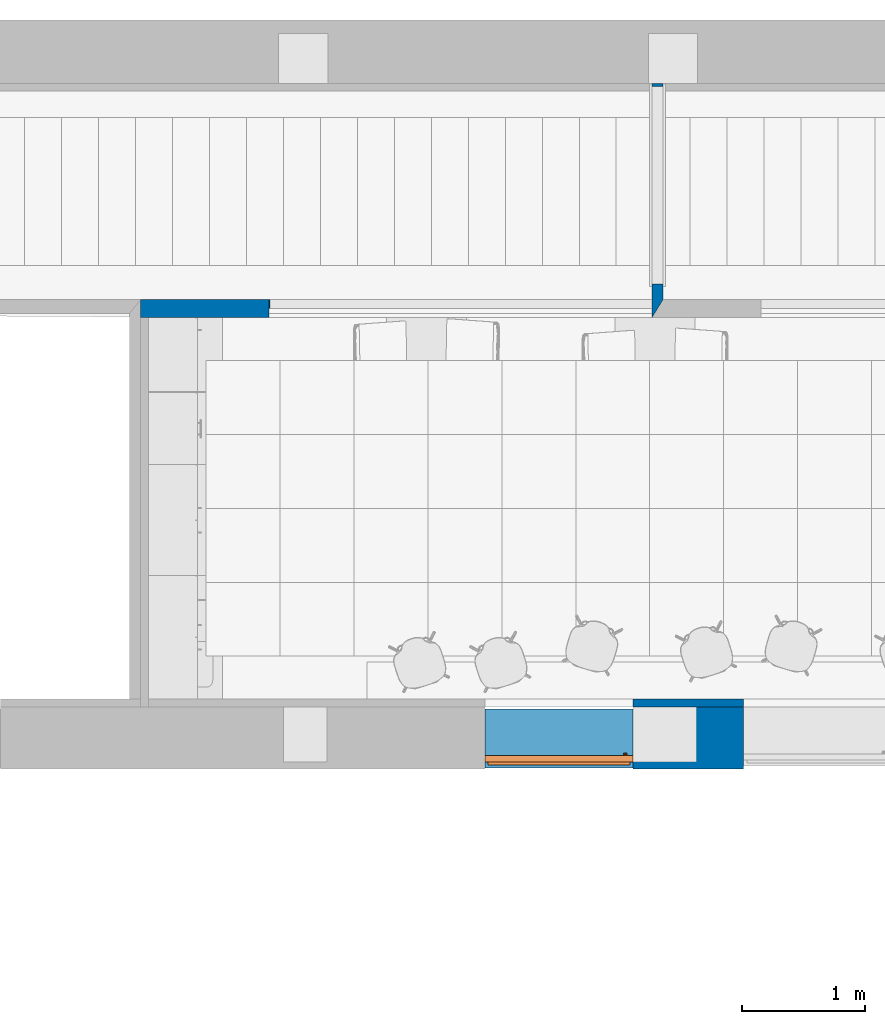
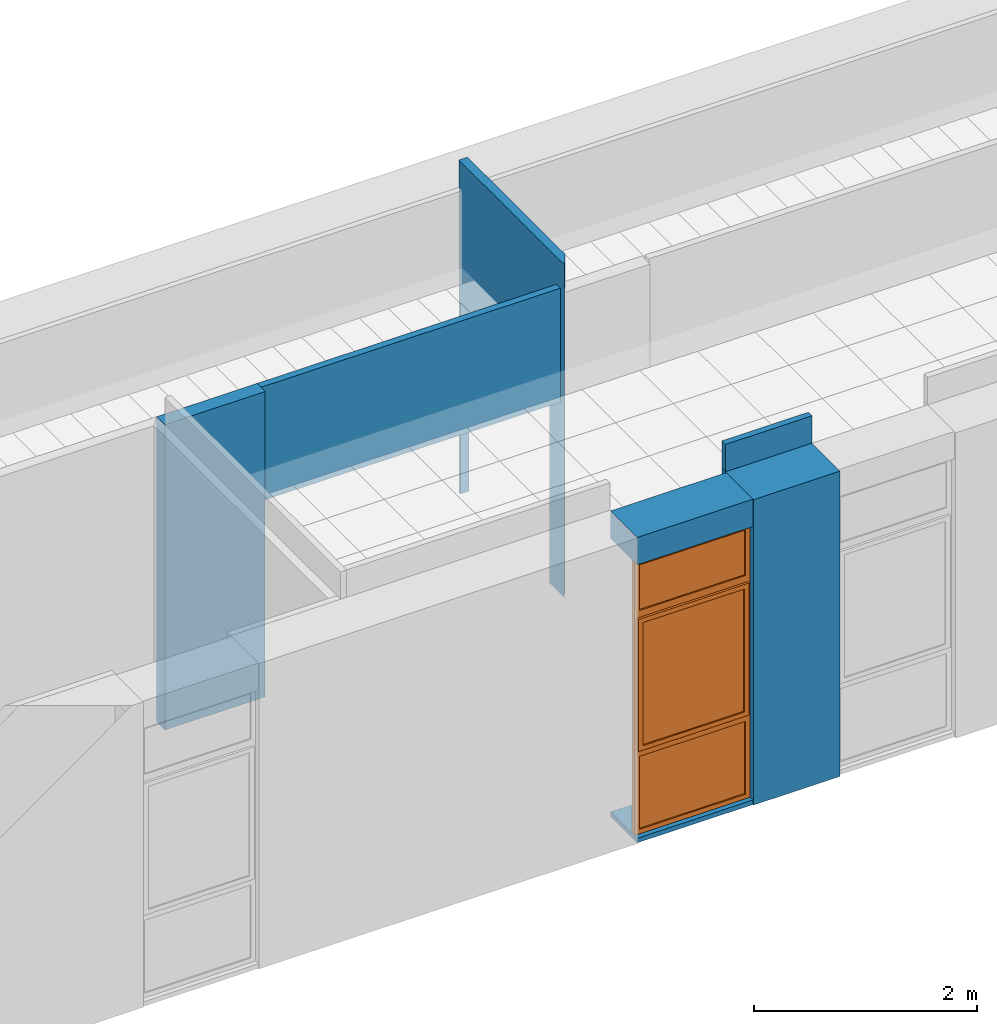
# One storey, part 34 of 60: 7 walls, 1 proxy, 3 openings.
"""IFC2X3 building model written with IfcOpenShell, lengths in millimetres."""

from ifc_helpers import new_model, entity, si_unit, converted_unit, derived_unit, money_unit, direction, frame, origin_with_axes, origin_2d_with_axis, place, context, subcontext, project, spatial, polyline, rectangle, outline, extrude, open_shell, faceted_brep, surface_model, source, transform, mapped, material, layer, layer_set, layer_usage, type_object, element, fill, save


model = new_model("IFC2X3")

# Units and contexts
model_context = context("Model", 3, precision=0.01, world=origin_with_axes(), true_north=direction((0.0, 1.0)))
body_context = subcontext(model_context, "Body", "Model", "MODEL_VIEW")
ifc_project = project(units=[si_unit("LENGTHUNIT", "METRE", prefix="MILLI"), si_unit("AREAUNIT", "SQUARE_METRE"), si_unit("VOLUMEUNIT", "CUBIC_METRE"), converted_unit("PLANEANGLEUNIT", "DEGREE", entity("IfcPlaneAngleMeasure", 0.0174532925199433), si_unit("PLANEANGLEUNIT", "RADIAN"), dimensions=[0, 0, 0, 0, 0, 0, 0]), money_unit("USD"), converted_unit("TIMEUNIT", "Year", entity("IfcTimeMeasure", 31557600.0), si_unit("TIMEUNIT", "SECOND"), dimensions=[0, 0, 1, 0, 0, 0, 0]), si_unit("MASSUNIT", "GRAM", prefix="KILO"), si_unit("THERMODYNAMICTEMPERATUREUNIT", "DEGREE_CELSIUS"), si_unit("LUMINOUSINTENSITYUNIT", "LUMEN"), si_unit("ENERGYUNIT", "JOULE", prefix="MEGA"), derived_unit("THERMALCONDUCTANCEUNIT", [(si_unit("POWERUNIT", "WATT"), 1), (si_unit("LENGTHUNIT", "METRE"), -1), (si_unit("THERMODYNAMICTEMPERATUREUNIT", "KELVIN"), -1)]), derived_unit("SPECIFICHEATCAPACITYUNIT", [(si_unit("ENERGYUNIT", "JOULE"), 1), (si_unit("MASSUNIT", "GRAM", prefix="KILO"), -1), (si_unit("THERMODYNAMICTEMPERATUREUNIT", "KELVIN"), -1)]), derived_unit("MASSDENSITYUNIT", [(si_unit("MASSUNIT", "GRAM", prefix="KILO"), 1), (si_unit("VOLUMEUNIT", "CUBIC_METRE"), -1)])], contexts=[model_context])

# Site, building, storey
site_placement = place(None, origin_with_axes())
site = spatial("IfcSite", under=ifc_project, at=site_placement, Name="Sitio", CompositionType="ELEMENT")
building_placement = place(site_placement, origin_with_axes())
building = spatial("IfcBuilding", under=site, at=building_placement, Name="Construcción", CompositionType="ELEMENT")
storey_placement = place(building_placement, frame((0.0, 0.0, 3650.0), z_axis=(0.0, 0.0, 1.0), x_axis=(1.0, 0.0, 0.0)))
storey = spatial("IfcBuildingStorey", under=building, at=storey_placement, Name="PLANTA 2ª", CompositionType="ELEMENT", Elevation=3650.0)

# Wall, opening, proxy
ifc_material_1 = material(Name="ARQ_AM246_Arrebossat_De_Guix")
ifc_layer_1 = layer(ifc_material_1, 10.0, ventilated="UNKNOWN")
ifc_material_2 = material(Name="ARQ_CE217_Gero")
ifc_layer_2 = layer(ifc_material_2, 120.0, ventilated="UNKNOWN")
ifc_material_3 = material(Name="ARQ_AI031_Aillament_Poliestireno expandido EPS")
ifc_layer_3 = layer(ifc_material_3, 120.0, ventilated="UNKNOWN")
ifc_material_4 = material(Name="ARQ_CE218_Ceramic")
ifc_layer_4 = layer(ifc_material_4, 220.0, ventilated="UNKNOWN")
ifc_layer_5 = layer(ifc_material_1, 10.0, ventilated="UNKNOWN")
ifc_layer_set_1 = layer_set([ifc_layer_1, ifc_layer_2, ifc_layer_3, ifc_layer_4, ifc_layer_5], Name="façana pati CR2 (ampit)")
ifc_layer_usage_1 = layer_usage(ifc_layer_set_1, "AXIS2", "POSITIVE", -480.0)
wall_type_1 = type_object("IfcWallType", Name="façana pati CR2 (ampit) 480", PredefinedType="NOTDEFINED")
wall_1_placement = place(storey_placement, frame((-20233.93135579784, -1208.975823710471, 0.0), z_axis=(0.0, 0.0, 1.0), x_axis=(1.0, 0.0, 0.0)))
wall_1 = element("IfcWallStandardCase", 1, at=wall_1_placement, inside=storey, type_object=wall_type_1, material=ifc_layer_usage_1, Name="MS-200", context=body_context, shape_type="SweptSolid", body=[
    extrude(outline(polyline([(0.0, -480.0), (1200.000000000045, -480.0), (1200.000000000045, 0.0), (0.0, 0.0), (0.0, -480.0)])), origin_with_axes(), (0.0, 0.0, 1.0), 3350.0),
])
opening_1_placement = place(wall_1_placement, frame((600.0000000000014, 0.0, 49.99999999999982), z_axis=(0.0, 0.0, 1.0), x_axis=(1.0, 0.0, 0.0)))
opening_1 = element("IfcOpeningElement", 2, at=opening_1_placement, cuts=wall_1, Name="F01", context=body_context, shape_type="SweptSolid", body=[
    extrude(rectangle(XDim=1200.000000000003, YDim=3000.0, at=origin_2d_with_axis()), frame((0.0, -429.9999999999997, 1500.0), z_axis=(0.0, -1.0, 0.0), x_axis=(-1.0, 0.0, 0.0)), (0.0, 0.0, -1.0), 909.9999999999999),
    extrude(rectangle(XDim=1200.000000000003, YDim=3000.0, at=origin_2d_with_axis()), frame((0.0, -429.9999999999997, 1500.0), z_axis=(0.0, 1.0, 0.0), x_axis=(-1.0, 0.0, 0.0)), (0.0, 0.0, -1.0), 530.0),
])
building_element_proxy_type = type_object("IfcBuildingElementProxyType", Name="Ventana Vertical Multi-Faja 27", PredefinedType="NOTDEFINED")
shared_shape = source(origin_with_axes(), body_context, "Body", "SurfaceModel", [
    faceted_brep([(-575.0, 0.0, 925.0), (-549.9999999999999, 0.0, 925.0), (-549.9999999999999, 0.0, 850.0), (-549.9999999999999, 0.0, 50.00000000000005), (-600.0, 0.0, 50.00000000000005), (-600.0, 0.0, 2950.0), (-549.9999999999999, 0.0, 2950.0), (-549.9999999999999, 0.0, 2450.0), (-549.9999999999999, 0.0, 2375.0), (-575.0, 0.0, 2375.0), (-575.0, -25.00000000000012, 925.0), (-549.9999999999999, -25.00000000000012, 925.0), (-549.9999999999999, -25.00000000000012, 950.0000000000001), (-549.9999999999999, -50.00000000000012, 950.0000000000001), (-549.9999999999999, -50.00000000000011, 850.0), (-549.9999999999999, -50.00000000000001, 50.00000000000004), (-600.0, -50.00000000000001, 50.00000000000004), (-600.0, -50.00000000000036, 2950.0), (-549.9999999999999, -50.00000000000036, 2950.0), (-549.9999999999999, -50.0000000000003, 2450.0), (-550.0, -25.00000000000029, 2375.0), (-549.9999999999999, -50.00000000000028, 2350.0), (-549.9999999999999, -25.00000000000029, 2350.0), (-575.0, -25.00000000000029, 2375.0)], [[[0, 1, 2, 3, 4, 5, 6, 7, 8, 9]], [[0, 10, 11, 1]], [[11, 12, 13, 14, 2, 1]], [[3, 2, 14, 15]], [[4, 3, 15, 16]], [[5, 4, 16, 17]], [[6, 5, 17, 18]], [[7, 6, 18, 19]], [[20, 8, 7, 19, 21, 22]], [[20, 23, 9, 8]], [[9, 23, 10, 0]], [[22, 12, 11, 10, 23, 20]], [[22, 21, 13, 12]], [[17, 16, 15, 14, 13, 21, 19, 18]]]),
    faceted_brep([(575.0, 0.0, 925.0), (575.0, 0.0, 2375.0), (549.9999999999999, 0.0, 2375.0), (549.9999999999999, 0.0, 2450.0), (549.9999999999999, 0.0, 2950.0), (600.0, 0.0, 2950.0), (600.0, 0.0, 50.00000000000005), (549.9999999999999, 0.0, 50.00000000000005), (549.9999999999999, 0.0, 850.0), (549.9999999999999, 0.0, 925.0), (575.0, -25.00000000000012, 925.0), (575.0, -25.00000000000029, 2375.0), (549.9999999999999, -25.00000000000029, 2375.0), (549.9999999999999, -25.00000000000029, 2350.0), (549.9999999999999, -50.00000000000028, 2350.0), (549.9999999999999, -50.0000000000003, 2450.0), (549.9999999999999, -50.00000000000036, 2950.0), (600.0, -50.00000000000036, 2950.0), (600.0, -50.00000000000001, 50.00000000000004), (549.9999999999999, -50.00000000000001, 50.00000000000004), (549.9999999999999, -50.00000000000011, 850.0), (550.0, -25.00000000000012, 925.0), (549.9999999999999, -50.00000000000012, 950.0000000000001), (549.9999999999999, -25.00000000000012, 950.0000000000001)], [[[0, 1, 2, 3, 4, 5, 6, 7, 8, 9]], [[0, 10, 11, 1]], [[1, 11, 12, 2]], [[12, 13, 14, 15, 3, 2]], [[4, 3, 15, 16]], [[5, 4, 16, 17]], [[6, 5, 17, 18]], [[7, 6, 18, 19]], [[8, 7, 19, 20]], [[21, 9, 8, 20, 22, 23]], [[9, 21, 10, 0]], [[12, 11, 10, 21, 23, 13]], [[23, 22, 14, 13]], [[14, 22, 20, 19, 18, 17, 16, 15]]]),
    faceted_brep([(-549.9999999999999, -25.00000000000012, 950.0000000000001), (-549.9999999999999, -50.00000000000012, 950.0000000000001), (549.9999999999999, -50.00000000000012, 950.0000000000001), (549.9999999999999, -25.00000000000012, 950.0000000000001), (-549.9999999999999, -25.00000000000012, 925.0), (-549.9999999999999, 0.0, 925.0), (-549.9999999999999, 0.0, 850.0), (-549.9999999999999, -50.00000000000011, 850.0), (549.9999999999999, -50.00000000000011, 850.0), (550.0, -25.00000000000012, 925.0), (549.9999999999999, 0.0, 850.0), (549.9999999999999, 0.0, 925.0)], [[[0, 1, 2, 3]], [[4, 5, 6, 7, 1, 0]], [[1, 7, 8, 2]], [[9, 3, 2, 8, 10, 11]], [[9, 4, 0, 3]], [[5, 4, 9, 11]], [[11, 10, 6, 5]], [[6, 10, 8, 7]]]),
    faceted_brep([(-549.9999999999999, 0.0, 2375.0), (-549.9999999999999, 0.0, 2450.0), (549.9999999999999, 0.0, 2450.0), (549.9999999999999, 0.0, 2375.0), (-550.0, -25.00000000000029, 2375.0), (-549.9999999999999, -25.00000000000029, 2350.0), (-549.9999999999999, -50.00000000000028, 2350.0), (-549.9999999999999, -50.0000000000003, 2450.0), (549.9999999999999, -50.0000000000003, 2450.0), (549.9999999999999, -25.00000000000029, 2375.0), (549.9999999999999, -50.00000000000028, 2350.0), (549.9999999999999, -25.00000000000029, 2350.0)], [[[0, 1, 2, 3]], [[4, 5, 6, 7, 1, 0]], [[2, 1, 7, 8]], [[9, 3, 2, 8, 10, 11]], [[9, 4, 0, 3]], [[11, 5, 4, 9]], [[11, 10, 6, 5]], [[7, 6, 10, 8]]]),
    faceted_brep([(549.9999999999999, -50.00000000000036, 2950.0), (549.9999999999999, 0.0, 2950.0), (600.0, 0.0, 2950.0), (600.0, -50.00000000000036, 2950.0), (-549.9999999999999, -50.00000000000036, 2950.0), (-549.9999999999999, 0.0, 2950.0), (-600.0, 0.0, 2950.0), (-600.0, 0.0, 3000.0), (600.0, 0.0, 3000.0), (600.0, -50.00000000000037, 3000.0), (-600.0, -50.00000000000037, 3000.0), (-600.0, -50.00000000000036, 2950.0)], [[[0, 1, 2, 3]], [[4, 5, 1, 0]], [[1, 5, 6, 7, 8, 2]], [[3, 2, 8, 9]], [[0, 3, 9, 10, 11, 4]], [[11, 6, 5, 4]], [[10, 7, 6, 11]], [[9, 8, 7, 10]]]),
    faceted_brep([(-549.9999999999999, -50.00000000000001, 50.0), (-549.9999999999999, 0.0, 50.00000000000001), (-600.0, 0.0, 50.00000000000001), (-600.0, -50.00000000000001, 50.0), (549.9999999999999, -50.00000000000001, 50.0), (549.9999999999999, 0.0, 50.00000000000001), (600.0, 0.0, 50.00000000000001), (600.0, 0.0, 0.0), (-600.0, 0.0, 0.0), (-600.0, -50.0, 0.0), (600.0, -50.0, 0.0), (600.0, -50.00000000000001, 50.0)], [[[0, 1, 2, 3]], [[4, 5, 1, 0]], [[1, 5, 6, 7, 8, 2]], [[3, 2, 8, 9]], [[0, 3, 9, 10, 11, 4]], [[11, 6, 5, 4]], [[10, 7, 6, 11]], [[9, 8, 7, 10]]]),
    surface_model("IfcShellBasedSurfaceModel", [(-549.9999999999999, -35.0, 49.99999999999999), (549.9999999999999, -35.0, 49.99999999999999), (549.9999999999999, -35.0000000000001, 850.0), (-549.9999999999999, -35.0000000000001, 850.0)], [open_shell([[[0, 1, 2, 3]]])]),
    surface_model("IfcShellBasedSurfaceModel", [(-549.9999999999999, -15.0, 49.99999999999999), (-549.9999999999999, -15.0000000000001, 850.0), (549.9999999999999, -15.0000000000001, 850.0), (549.9999999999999, -15.0, 49.99999999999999)], [open_shell([[[0, 1, 2, 3]]])]),
    faceted_brep([(-521.5, -25.00000000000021, 1677.0), (-522.8397459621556, -25.00000000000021, 1682.0), (-522.8397459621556, -37.00000000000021, 1682.0), (-521.5, -37.00000000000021, 1677.0), (-521.5, -25.0000000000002, 1623.0), (-522.8397459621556, -25.0000000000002, 1618.0), (-526.5, -25.0000000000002, 1614.339745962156), (-531.5, -25.0000000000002, 1613.0), (-543.5, -25.0000000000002, 1613.0), (-548.5, -25.0000000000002, 1614.339745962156), (-552.1602540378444, -25.0000000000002, 1618.0), (-553.5, -25.0000000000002, 1623.0), (-553.5, -25.00000000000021, 1677.0), (-552.1602540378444, -25.00000000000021, 1682.0), (-548.5, -25.00000000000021, 1685.660254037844), (-543.5, -25.00000000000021, 1687.0), (-531.5, -25.00000000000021, 1687.0), (-526.5, -25.00000000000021, 1685.660254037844), (-526.5, -37.00000000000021, 1685.660254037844), (-531.5, -37.00000000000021, 1687.0), (-543.5, -37.00000000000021, 1687.0), (-548.5, -37.00000000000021, 1685.660254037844), (-552.1602540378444, -37.00000000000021, 1682.0), (-553.5, -37.00000000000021, 1677.0), (-553.5, -37.0000000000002, 1623.0), (-552.1602540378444, -37.0000000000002, 1618.0), (-548.5, -37.0000000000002, 1614.339745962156), (-543.5, -37.0000000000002, 1613.0), (-531.5, -37.0000000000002, 1613.0), (-526.5, -37.0000000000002, 1614.339745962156), (-522.8397459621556, -37.0000000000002, 1618.0), (-521.5, -37.0000000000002, 1623.0)], [[[0, 1, 2, 3]], [[0, 4, 5, 6, 7, 8, 9, 10, 11, 12, 13, 14, 15, 16, 17, 1]], [[1, 17, 18, 2]], [[3, 2, 18, 19, 20, 21, 22, 23, 24, 25, 26, 27, 28, 29, 30, 31]], [[4, 0, 3, 31]], [[5, 4, 31, 30]], [[6, 5, 30, 29]], [[7, 6, 29, 28]], [[8, 7, 28, 27]], [[9, 8, 27, 26]], [[10, 9, 26, 25]], [[11, 10, 25, 24]], [[12, 11, 24, 23]], [[13, 12, 23, 22]], [[14, 13, 22, 21]], [[15, 14, 21, 20]], [[16, 15, 20, 19]], [[17, 16, 19, 18]]]),
    faceted_brep([(-537.5, -37.0000000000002, 1663.5), (-544.25, -37.0000000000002, 1661.69134295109), (-544.25, -61.00000000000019, 1661.69134295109), (-537.5, -61.00000000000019, 1663.5), (-530.75, -37.0000000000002, 1661.69134295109), (-525.80865704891, -37.0000000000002, 1656.75), (-524.0, -37.0000000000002, 1650.0), (-525.8086570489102, -37.0000000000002, 1643.25), (-530.75, -37.0000000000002, 1638.30865704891), (-537.5, -37.0000000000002, 1636.5), (-544.25, -37.0000000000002, 1638.30865704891), (-549.19134295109, -37.0000000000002, 1643.25), (-550.9999999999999, -37.0000000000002, 1650.0), (-549.1913429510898, -37.0000000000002, 1656.75), (-549.1913429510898, -61.00000000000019, 1656.75), (-550.9999999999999, -61.00000000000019, 1650.0), (-549.19134295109, -61.00000000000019, 1643.25), (-544.25, -61.00000000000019, 1638.30865704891), (-537.5, -61.00000000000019, 1636.5), (-530.75, -61.00000000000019, 1638.30865704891), (-525.8086570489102, -61.00000000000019, 1643.25), (-524.0, -61.00000000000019, 1650.0), (-525.80865704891, -61.00000000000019, 1656.75), (-530.75, -61.00000000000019, 1661.69134295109)], [[[0, 1, 2, 3]], [[0, 4, 5, 6, 7, 8, 9, 10, 11, 12, 13, 1]], [[1, 13, 14, 2]], [[3, 2, 14, 15, 16, 17, 18, 19, 20, 21, 22, 23]], [[4, 0, 3, 23]], [[5, 4, 23, 22]], [[6, 5, 22, 21]], [[7, 6, 21, 20]], [[8, 7, 20, 19]], [[9, 8, 19, 18]], [[10, 9, 18, 17]], [[11, 10, 17, 16]], [[12, 11, 16, 15]], [[13, 12, 15, 14]]]),
    faceted_brep([(-526.0, -61.00000000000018, 1543.0), (-537.5, -61.00000000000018, 1540.0), (-548.9999999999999, -61.00000000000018, 1543.0), (-550.9999999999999, -61.00000000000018, 1546.0), (-550.9999999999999, -61.00000000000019, 1650.0), (-549.1913429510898, -61.00000000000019, 1656.75), (-544.25, -61.00000000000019, 1661.69134295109), (-537.5, -61.00000000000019, 1663.5), (-530.75, -61.00000000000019, 1661.69134295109), (-525.80865704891, -61.00000000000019, 1656.75), (-524.0, -61.00000000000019, 1650.0), (-524.0, -61.00000000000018, 1546.0), (-525.9999999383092, -69.00000000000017, 1543.000000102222), (-537.499999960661, -69.00000000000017, 1539.999999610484), (-548.9999999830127, -69.00000000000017, 1543.000000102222), (-551.0000003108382, -69.00000000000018, 1545.999999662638), (-551.0000003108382, -69.0000000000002, 1649.99999994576), (-549.1913429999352, -69.0000000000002, 1656.749999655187), (-544.2499996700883, -69.0000000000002, 1661.691342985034), (-537.499999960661, -69.0000000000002, 1663.500000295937), (-530.7500002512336, -69.0000000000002, 1661.691342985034), (-525.8086569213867, -69.0000000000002, 1656.749999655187), (-523.9999996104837, -69.0000000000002, 1649.99999994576), (-523.9999996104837, -69.00000000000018, 1545.999999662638), (-527.8625374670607, -71.99999956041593, 1545.61451963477), (-537.499999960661, -71.99999956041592, 1543.100398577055), (-547.1374624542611, -71.99999956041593, 1545.61451963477), (-548.0000007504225, -71.99999956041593, 1546.908326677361), (-548.0000007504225, -71.99999956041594, 1649.605042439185), (-546.5016170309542, -71.99999956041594, 1655.197085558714), (-542.6970855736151, -71.99999956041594, 1659.001617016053), (-537.499999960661, -71.99999956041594, 1660.394172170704), (-532.3029143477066, -71.99999956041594, 1659.001617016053), (-528.4983828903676, -71.99999956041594, 1655.197085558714), (-526.9999991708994, -71.99999956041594, 1649.605042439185), (-526.9999991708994, -71.99999956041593, 1546.908326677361)], [[[0, 1, 2, 3, 4, 5, 6, 7, 8, 9, 10, 11]], [[1, 0, 12, 13]], [[2, 1, 13, 14]], [[3, 2, 14, 15]], [[4, 3, 15, 16]], [[5, 4, 16, 17]], [[6, 5, 17, 18]], [[7, 6, 18, 19]], [[8, 7, 19, 20]], [[9, 8, 20, 21]], [[10, 9, 21, 22]], [[11, 10, 22, 23]], [[0, 11, 23, 12]], [[13, 12, 24, 25]], [[14, 13, 25, 26]], [[15, 14, 26, 27]], [[16, 15, 27, 28]], [[17, 16, 28, 29]], [[18, 17, 29, 30]], [[19, 18, 30, 31]], [[20, 19, 31, 32]], [[21, 20, 32, 33]], [[22, 21, 33, 34]], [[23, 22, 34, 35]], [[12, 23, 35, 24]], [[26, 25, 24, 35, 34, 33, 32, 31, 30, 29, 28, 27]]]),
    faceted_brep([(-524.9999999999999, -25.00000000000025, 2325.0), (-524.9999999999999, 24.99999999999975, 2325.0), (-575.0, 24.99999999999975, 2325.0), (-575.0, -25.00000000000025, 2325.0), (-524.9999999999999, -25.00000000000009, 975.0000000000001), (-524.9999999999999, 24.99999999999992, 975.0000000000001), (-575.0, 24.99999999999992, 975.0000000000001), (-575.0, -25.00000000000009, 975.0000000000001)], [[[0, 1, 2, 3]], [[4, 5, 1, 0]], [[1, 5, 6, 2]], [[3, 2, 6, 7]], [[0, 3, 7, 4]], [[7, 6, 5, 4]]]),
    faceted_brep([(524.9999999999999, -25.00000000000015, 975.0000000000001), (524.9999999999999, 24.99999999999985, 975.0000000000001), (575.0, 24.99999999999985, 975.0000000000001), (575.0, -25.00000000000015, 975.0000000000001), (524.9999999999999, -25.00000000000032, 2325.0), (524.9999999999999, 24.99999999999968, 2325.0), (575.0, 24.99999999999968, 2325.0), (575.0, -25.00000000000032, 2325.0)], [[[0, 1, 2, 3]], [[4, 5, 1, 0]], [[1, 5, 6, 2]], [[3, 2, 6, 7]], [[0, 3, 7, 4]], [[7, 6, 5, 4]]]),
    faceted_brep([(575.0, -25.00000000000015, 925.0), (575.0, 24.99999999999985, 925.0), (575.0, 24.99999999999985, 975.0000000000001), (575.0, -25.00000000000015, 975.0000000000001), (-575.0, -25.00000000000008, 925.0), (-575.0, 24.99999999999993, 925.0), (-575.0, 24.99999999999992, 975.0000000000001), (-524.9999999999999, 24.99999999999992, 975.0000000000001), (524.9999999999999, 24.99999999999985, 975.0000000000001), (524.9999999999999, -25.00000000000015, 975.0000000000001), (-524.9999999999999, -25.00000000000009, 975.0000000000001), (-575.0, -25.00000000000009, 975.0000000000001)], [[[0, 1, 2, 3]], [[4, 5, 1, 0]], [[1, 5, 6, 7, 8, 2]], [[3, 2, 8, 9]], [[0, 3, 9, 10, 11, 4]], [[11, 6, 5, 4]], [[10, 7, 6, 11]], [[9, 8, 7, 10]]]),
    faceted_brep([(-575.0, -25.00000000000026, 2375.0), (-575.0, 24.99999999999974, 2375.0), (-575.0, 24.99999999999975, 2325.0), (-575.0, -25.00000000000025, 2325.0), (575.0, -25.00000000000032, 2375.0), (575.0, 24.99999999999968, 2375.0), (575.0, 24.99999999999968, 2325.0), (524.9999999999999, 24.99999999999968, 2325.0), (-524.9999999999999, 24.99999999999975, 2325.0), (-524.9999999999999, -25.00000000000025, 2325.0), (524.9999999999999, -25.00000000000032, 2325.0), (575.0, -25.00000000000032, 2325.0)], [[[0, 1, 2, 3]], [[4, 5, 1, 0]], [[1, 5, 6, 7, 8, 2]], [[3, 2, 8, 9]], [[0, 3, 9, 10, 11, 4]], [[11, 6, 5, 4]], [[10, 7, 6, 11]], [[9, 8, 7, 10]]]),
    surface_model("IfcShellBasedSurfaceModel", [(-524.9999999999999, -10.00000000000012, 975.0000000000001), (524.9999999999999, -10.00000000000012, 975.0000000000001), (524.9999999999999, -10.00000000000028, 2325.0), (-524.9999999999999, -10.00000000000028, 2325.0)], [open_shell([[[0, 1, 2, 3]]])]),
    surface_model("IfcShellBasedSurfaceModel", [(-524.9999999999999, 9.999999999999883, 975.0000000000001), (-524.9999999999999, 9.99999999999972, 2325.0), (524.9999999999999, 9.99999999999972, 2325.0), (524.9999999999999, 9.999999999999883, 975.0000000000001)], [open_shell([[[0, 1, 2, 3]]])]),
    surface_model("IfcShellBasedSurfaceModel", [(-549.9999999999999, -35.0000000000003, 2450.0), (549.9999999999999, -35.0000000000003, 2450.0), (549.9999999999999, -35.00000000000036, 2950.0), (-549.9999999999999, -35.00000000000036, 2950.0)], [open_shell([[[0, 1, 2, 3]]])]),
    surface_model("IfcShellBasedSurfaceModel", [(-549.9999999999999, -15.0000000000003, 2450.0), (-549.9999999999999, -15.00000000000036, 2950.0), (549.9999999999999, -15.00000000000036, 2950.0), (549.9999999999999, -15.0000000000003, 2450.0)], [open_shell([[[0, 1, 2, 3]]])]),
])
proxy_placement = place(opening_1_placement, frame((600.0000000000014, 0.0, 0.0), z_axis=(0.0, 0.0, 1.0), x_axis=(-1.0, 0.0, 0.0)))
proxy = element("IfcBuildingElementProxy", 3, at=proxy_placement, inside=storey, type_object=building_element_proxy_type, Name="F01", context=body_context, shape_type="MappedRepresentation", body=[
    mapped(shared_shape, transform((600.0000000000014, 429.9999999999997, 0.0))),
])
fill(opening_1, proxy)

# Wall
ifc_layer_6 = layer(ifc_material_2, 10.0, ventilated="UNKNOWN")
ifc_layer_7 = layer(ifc_material_2, 90.0, ventilated="UNKNOWN")
ifc_layer_8 = layer(ifc_material_3, 180.0, ventilated="UNKNOWN")
ifc_layer_9 = layer(ifc_material_4, 215.0, ventilated="UNKNOWN")
ifc_layer_10 = layer(ifc_material_1, 10.0, ventilated="UNKNOWN")
ifc_layer_set_2 = layer_set([ifc_layer_6, ifc_layer_7, ifc_layer_8, ifc_layer_9, ifc_layer_10], Name="façana pati CR2")
ifc_layer_usage_2 = layer_usage(ifc_layer_set_2, "AXIS2", "POSITIVE", -505.0)
wall_type_2 = type_object("IfcWallType", Name="façana pati CR2 505", PredefinedType="NOTDEFINED")
wall_2_placement = place(storey_placement, frame((-19033.93135579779, -1193.975823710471, 0.0), z_axis=(0.0, 0.0, 1.0), x_axis=(1.0, 0.0, 0.0)))
element("IfcWallStandardCase", 4, at=wall_2_placement, inside=storey, type_object=wall_type_2, material=ifc_layer_usage_2, Name="MS-200", context=body_context, shape_type="SweptSolid", body=[
    extrude(outline(polyline([(0.0, -505.0000000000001), (897.5000000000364, -505.0000000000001), (897.5000000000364, 0.0), (0.0, 0.0), (0.0, -505.0000000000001)])), origin_with_axes(), (0.0, 0.0, 1.0), 3350.0),
])

# Wall, opening
ifc_material_5 = material(Name="Panel de Yeso Laminado")
ifc_layer_11 = layer(ifc_material_5, 5.0, ventilated="UNKNOWN")
ifc_material_6 = material(Name="ARQ_AI033_Aillament_Llana_De_Roca")
ifc_layer_12 = layer(ifc_material_6, 60.0, ventilated="UNKNOWN")
ifc_layer_13 = layer(ifc_material_5, 5.0, ventilated="UNKNOWN")
ifc_layer_set_3 = layer_set([ifc_layer_11, ifc_layer_12, ifc_layer_13], Name="CR- MAMPARA")
ifc_layer_usage_3 = layer_usage(ifc_layer_set_3, "AXIS2", "POSITIVE", 0.0)
wall_type_3 = type_object("IfcWallType", Name="CR- MAMPARA 70", PredefinedType="NOTDEFINED")
wall_3_placement = place(storey_placement, frame((-18790.28549374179, 2109.554870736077, 0.0), z_axis=(0.0, 0.0, 1.0), x_axis=(-1.0, 0.0, 0.0)))
wall_3 = element("IfcWallStandardCase", 5, at=wall_3_placement, inside=storey, type_object=wall_type_3, material=ifc_layer_usage_3, Name="MS-214", context=body_context, shape_type="SweptSolid", body=[
    extrude(outline(polyline([(89.99999999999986, 0.0), (3196.77889602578, 0.0), (3196.77889602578, 69.99999999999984), (89.99999999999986, 69.99999999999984), (89.99999999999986, 0.0)])), origin_with_axes(), (0.0, 0.0, 1.0), 3350.0),
])
opening_2_placement = place(wall_3_placement, frame((1640.0, 0.0, 0.0), z_axis=(0.0, 0.0, 1.0), x_axis=(1.0, 0.0, 0.0)))
element("IfcOpeningElement", 6, at=opening_2_placement, cuts=wall_3, Name="M-12", context=body_context, shape_type="SweptSolid", body=[
    extrude(rectangle(XDim=3100.000000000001, YDim=2100.0, at=origin_2d_with_axis()), frame((0.0, -69.99999999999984, 1050.0), z_axis=(0.0, 1.0, 0.0), x_axis=(-1.0, 0.0, 0.0)), (0.0, 0.0, 1.0), 210.0),
])

# Walls
ifc_material_7 = material(Name="ARQ_FU093_Panellat_HPL")
ifc_layer_14 = layer(ifc_material_7, 6.0, ventilated="UNKNOWN")
ifc_material_8 = material(Name="ARQ_EN271_Camara_Aire")
ifc_layer_15 = layer(ifc_material_8, 6.0, ventilated="UNKNOWN")
ifc_layer_16 = layer(ifc_material_5, 13.0, ventilated="UNKNOWN")
ifc_layer_17 = layer(ifc_material_6, 40.0, ventilated="UNKNOWN")
ifc_layer_set_4 = layer_set([ifc_layer_14, ifc_layer_15, ifc_layer_16, ifc_layer_17], Name="Pladur Tras 40 / 1N +HPL")
ifc_layer_usage_4 = layer_usage(ifc_layer_set_4, "AXIS2", "POSITIVE", -65.0)
wall_type_4 = type_object("IfcWallType", Name="Pladur Tras 40 / 1N +HPL 65", PredefinedType="NOTDEFINED")
wall_4_placement = place(storey_placement, frame((-18136.43135579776, -1193.97582371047, 0.0), z_axis=(0.0, 0.0, 1.0), x_axis=(-1.0, 0.0, 0.0)))
element("IfcWallStandardCase", 7, at=wall_4_placement, inside=storey, type_object=wall_type_4, material=ifc_layer_usage_4, Name="MS-243", context=body_context, shape_type="SweptSolid", body=[
    extrude(outline(polyline([(0.0, -64.99999999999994), (897.5000000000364, -64.99999999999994), (897.5000000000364, 0.0), (0.0, 0.0), (0.0, -64.99999999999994)])), origin_with_axes(), (0.0, 0.0, 1.0), 3650.0),
])
ifc_layer_usage_5 = layer_usage(ifc_layer_set_4, "AXIS2", "NEGATIVE", 0.0)
wall_5_placement = place(storey_placement, frame((-19033.93135579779, -1128.975823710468, 0.0), z_axis=(0.0, 0.0, 1.0), x_axis=(1.0, 0.0, 0.0)))
element("IfcWallStandardCase", 8, at=wall_5_placement, inside=storey, type_object=wall_type_4, material=ifc_layer_usage_5, Name="MS-241", context=body_context, shape_type="SweptSolid", body=[
    extrude(outline(polyline([(0.0, -64.99999999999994), (897.5000000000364, -64.99999999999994), (897.5000000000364, 0.0), (0.0, 0.0), (0.0, -64.99999999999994)])), origin_with_axes(), (0.0, 0.0, 1.0), 3350.0),
])
ifc_layer_18 = layer(ifc_material_7, 6.0, ventilated="UNKNOWN")
ifc_layer_19 = layer(ifc_material_8, 6.0, ventilated="UNKNOWN")
ifc_layer_20 = layer(ifc_material_5, 13.0, ventilated="UNKNOWN")
ifc_layer_21 = layer(ifc_material_5, 13.0, ventilated="UNKNOWN")
ifc_layer_22 = layer(ifc_material_6, 70.0, ventilated="UNKNOWN")
ifc_layer_23 = layer(ifc_material_5, 13.0, ventilated="UNKNOWN")
ifc_layer_24 = layer(ifc_material_5, 13.0, ventilated="UNKNOWN")
ifc_layer_25 = layer(ifc_material_8, 6.0, ventilated="UNKNOWN")
ifc_layer_26 = layer(ifc_material_7, 6.0, ventilated="UNKNOWN")
ifc_layer_set_5 = layer_set([ifc_layer_18, ifc_layer_19, ifc_layer_20, ifc_layer_21, ifc_layer_22, ifc_layer_23, ifc_layer_24, ifc_layer_25, ifc_layer_26], Name="CR Pladur 70 HPL 2 cares")
ifc_layer_usage_6 = layer_usage(ifc_layer_set_5, "AXIS2", "POSITIVE", 0.0)
wall_type_5 = type_object("IfcWallType", Name="CR Pladur 70 HPL 2 cares 146", PredefinedType="NOTDEFINED")
wall_6_placement = place(storey_placement, frame((-21987.06438976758, 2109.554870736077, 0.0), z_axis=(0.0, 0.0, 1.0), x_axis=(-1.0, 0.0, 0.0)))
element("IfcWallStandardCase", 9, at=wall_6_placement, inside=storey, type_object=wall_type_5, material=ifc_layer_usage_6, Name="MS-214", context=body_context, shape_type="SweptSolid", body=[
    extrude(outline(polyline([(0.0, 0.0), (1041.35350784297, 0.0), (1041.35350784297, 145.9999999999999), (0.0, 145.9999999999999), (0.0, 0.0)])), origin_with_axes(), (0.0, 0.0, 1.0), 3350.0),
])

# Wall, opening
ifc_layer_27 = layer(ifc_material_1, 10.0, ventilated="UNKNOWN")
ifc_layer_28 = layer(ifc_material_2, 70.0, ventilated="UNKNOWN")
ifc_layer_29 = layer(ifc_material_1, 10.0, ventilated="UNKNOWN")
ifc_layer_set_6 = layer_set([ifc_layer_27, ifc_layer_28, ifc_layer_29], Name="CR Enva Totxaneta")
ifc_layer_usage_7 = layer_usage(ifc_layer_set_6, "AXIS2", "POSITIVE", 0.0)
wall_type_6 = type_object("IfcWallType", Name="CR Enva Totxaneta 90", PredefinedType="NOTDEFINED")
wall_7_placement = place(storey_placement, frame((-18790.28549374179, 2109.554870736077, 0.0), z_axis=(0.0, 0.0, 1.0), x_axis=(0.0, 1.0, 0.0)))
wall_7 = element("IfcWallStandardCase", 10, at=wall_7_placement, inside=storey, type_object=wall_type_6, material=ifc_layer_usage_7, Name="MS-203", context=body_context, shape_type="SweptSolid", body=[
    extrude(outline(polyline([(0.0, 0.0), (1753.899315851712, 0.0), (1753.899315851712, 89.99999999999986), (-145.9999999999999, 89.99999999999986), (0.0, 0.0)])), origin_with_axes(), (0.0, 0.0, 1.0), 3650.0),
])
opening_3_placement = place(wall_7_placement, frame((927.7911143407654, 0.0, 0.0), z_axis=(0.0, 0.0, 1.0), x_axis=(1.0, 0.0, 0.0)))
element("IfcOpeningElement", 11, at=opening_3_placement, cuts=wall_7, Name="PF-30D", context=body_context, shape_type="SweptSolid", body=[
    extrude(rectangle(XDim=1600.0, YDim=2100.0, at=origin_2d_with_axis()), frame((0.0, 89.99999999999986, 1049.999999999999), z_axis=(0.0, 1.0, 0.0), x_axis=(1.0, 0.0, 0.0)), (0.0, 0.0, -1.0), 270.0),
    extrude(rectangle(XDim=1644.0, YDim=2122.0, at=origin_2d_with_axis()), frame((0.0, 89.9999999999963, 1061.0), z_axis=(0.0, 1.0, 0.0), x_axis=(1.0, 0.0, 0.0)), (0.0, 0.0, 1.0), 90.0),
    extrude(rectangle(XDim=1644.0, YDim=2122.0, at=origin_2d_with_axis()), frame((0.0, 0.0, 1061.0), z_axis=(0.0, -1.0, 0.0), x_axis=(1.0, 0.0, 0.0)), (0.0, 0.0, 1.0), 90.0),
])

save(model, "model.ifc")
